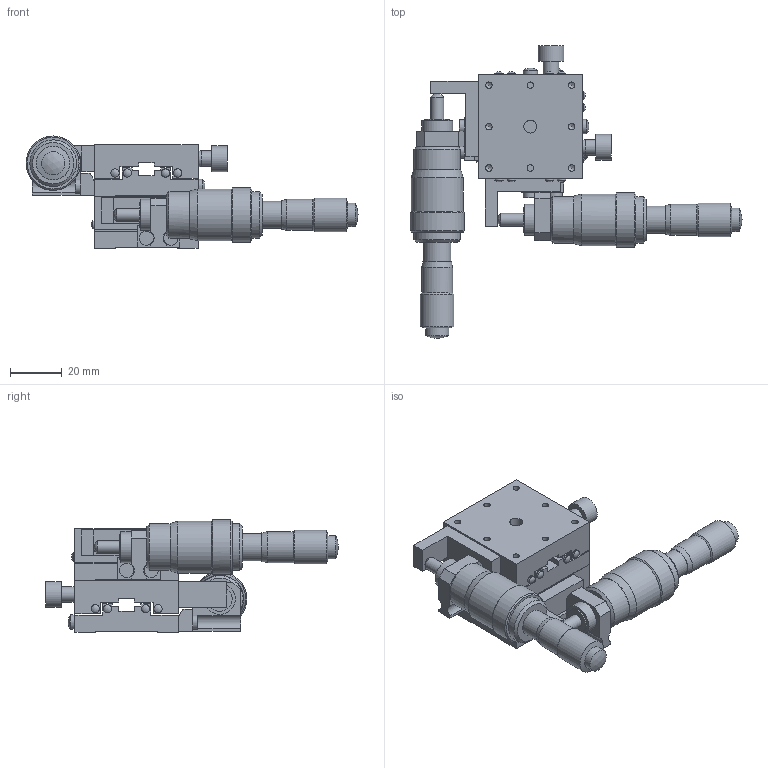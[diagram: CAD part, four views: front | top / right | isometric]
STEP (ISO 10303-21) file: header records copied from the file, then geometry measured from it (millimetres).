
FILE_DESCRIPTION( ( 'STEP AP214' ), '1' );
FILE_NAME( 'C:/Project/3D_B21-40D-配布-070508.stp', '2007-05-08T10:42:44', ( ' ' ), ( ' ' ), 'XStep 1.0', ' ', ' ' );
FILE_SCHEMA( ( 'automotive_design' ) );
Length unit declared in the file: millimetre
Products named in the file (6): 1; 2; 3; 4; 5; 6
Bounding box: 128.3 x 113.1 x 43.3 mm (x, y, z)
Volume: 97827.3 mm3; surface area: 44829.1 mm2
Topology: 6 solids, 6 shells, 367 faces, 877 edges, 578 vertices
Faces by surface type: plane 192, cylinder 123, cone 28, sphere 24
Full cylindrical faces by diameter (mm): 2.5 x32, 3 x2, 3.2 x16, 3.5 x8, 5 x6, 5.5 x4, 5.6 x4, 6 x11, 9 x2, 9.5 x2, 10 x2, 10.5 x4, 12 x4, 13 x2, 18 x4, 20 x2, 21 x2
Entity records: 12523 total; most frequent: DIRECTION 1672, CARTESIAN_POINT 1579, ORIENTED_EDGE 1358, EDGE_CURVE 679, AXIS2_PLACEMENT_3D 620, EDGE_LOOP 594, VERTEX_POINT 527, FACE_OUTER_BOUND 474
